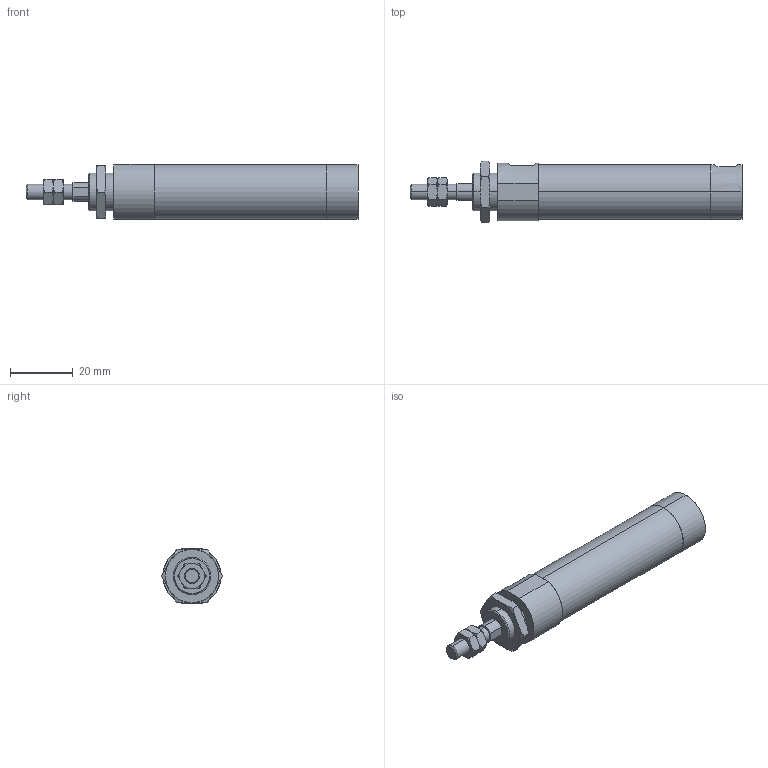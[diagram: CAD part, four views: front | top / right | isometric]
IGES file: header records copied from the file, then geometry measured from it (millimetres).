
Start section: SolidWorks IGES file using analytic representation for surfaces
Global section: file name: C:\Users\Toshiba\Desktop\ZGU2-16-30-N.IGS; native system: SolidWorks 2014; preprocessor: SolidWorks 2014; author: Toshiba; date: 160331.085909; units: millimetre
Bounding box: 106 x 19.63 x 17.6 mm (x, y, z)
Surface area: 6686 mm2 (no closed solid volume)
Topology: 0 solids, 0 shells, 108 faces, 1684 edges, 1680 vertices
Faces by surface type: bspline 77, revolution 31
